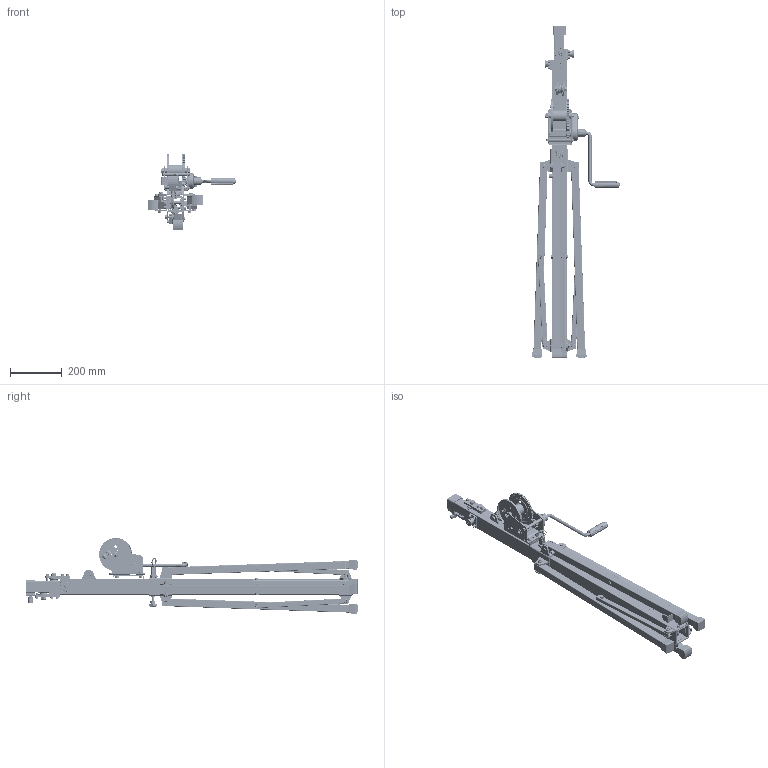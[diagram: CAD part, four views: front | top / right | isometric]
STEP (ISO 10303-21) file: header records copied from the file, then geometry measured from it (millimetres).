
FILE_DESCRIPTION (( 'STEP AP214' ), '1' );
FILE_NAME ('Torre K-1.2.STEP', '2022-10-06T11:02:59', ( '' ), ( '' ), 'SwSTEP 2.0', 'SolidWorks 2022', '' );
FILE_SCHEMA (( 'AUTOMOTIVE_DESIGN' ));
Length unit declared in the file: millimetre
Products named in the file (75): GAT-005; ACD-004; T912.6.0_T912.6.10z; 2093; TO7991.5.0G_TO7991.5.12G; BAR6-120; AR125.12.G; AR125.8.G; 2065; 2067; PET50-6-40A; 2125K - Pomo Kuzar verde rosca metálica M10x35 (09-09-19); 2042-02_2042-02; 2094-01; 2093-01; Alko 450kg Compact Original (Manivela corta); CHC-001; 2092; TU985.8z; BUL-013; 2036; CGA_K-27; PET40-6-40; TO931.8.0G_TO931.8.55z; Manivela sin pomo (para render 3d); 2042-01_2042-01; Pomo plástico rojo Cabrestante alko compact; 2023; 2094-04; ANI-32x3; 2024N; 2035; 2025N_Pletina eje inferior torres pequeñas; 2073_Tapón de plástico 30x30x25mm; CTP-003_Laser; 2074L_Pomo rosca M8 nylon (30-10-18); 2091; 2053; socket countersunk head screw_din_DIN 7991 - M6 x 12 --- 5.7N; ORE-002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
Assembly tree (172 placements, depth 4):
  Torre K-1.2
    2091
      2091-01
      ORE-001  x2
      CHC-001
      CTP-003_Laser
    2092
      2092-01
      CTP-001
      PET50-6-40A
      PET50-6-40B
      BAR6-120
    2093
      PET40-6-40  x2
      2093-01
      BAR6-120
    EX-034
    2094
      2094-01
      2094-03
      2094-04
    2067  x3
    2068  x4
    2042
      2042-02_2042-02
      2042-01_2042-01
    2053
      2053-01
      ORE-002  x4
    2065
      2065-01
      ORE-003  x8
      TU936.8.I2
      TU936.18.I2
    2036  x2
    2021  x2
    2035
    2022
    2024N
    2025N_Pletina eje inferior torres pequeñas
    2023  x2
    2041  x2
    2189K
      BUL-013
      GAT-009
      ANI-32x3
    2182K  x2
      ACD-004
      GAT-005
        CGA_K-27
        PGA-49x40
      BUL-005
      socket countersunk head screw_din_DIN 7991 - M6 x 12 --- 5.7N
      Ø3x22mm DIN 1481
    2073_Tapón de plástico 30x30x25mm  x4
    2072_Tapón de plástico 20x16x21mm  x4
    2071_Tapón plástico para patas de 30x30mm  x4
    T912.6.0_T912.6.20z  x6
    AR125.6.G  x14
    TO7991.5.0G_TO7991.5.12G  x3
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Bounding box: 339.28 x 1281 x 293.62 mm (x, y, z)
Volume: 2643787.5 mm3; surface area: 3124837 mm2
Topology: 173 solids, 226 shells, 5309 faces, 13028 edges, 8323 vertices
Faces by surface type: plane 2349, cylinder 1922, cone 661, bspline 224, torus 143, sphere 10
Entity records: 173840 total; most frequent: CARTESIAN_POINT 76847, DIRECTION 18032, ORIENTED_EDGE 17794, EDGE_CURVE 8899, AXIS2_PLACEMENT_3D 6689, VERTEX_POINT 5741, VECTOR 4654, LINE 4654
